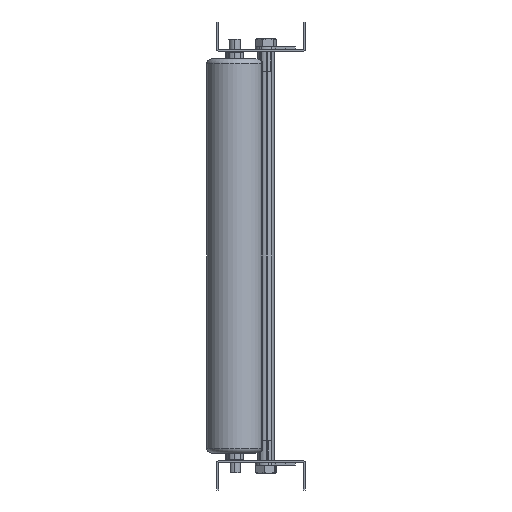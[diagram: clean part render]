
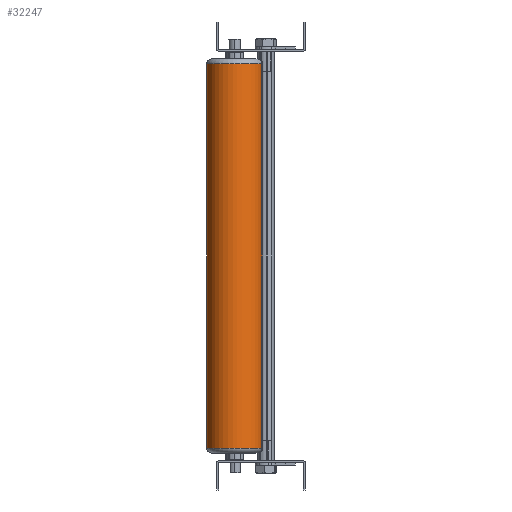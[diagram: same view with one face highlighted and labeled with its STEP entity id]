
A CAD part, left-side view. The second image highlights one B-rep face of the part: STEP entity #32247.
In plain terms, the highlighted cylindrical face has radius 28.5 mm (diameter 57 mm), a partial arc.
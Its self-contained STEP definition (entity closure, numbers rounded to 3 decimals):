
#270 = DIRECTION ( 'NONE',  ( 0.25, 0.968, 0. ) ) ;
#1215 = CARTESIAN_POINT ( 'NONE',  ( -3175.861, 630.681, 661.827 ) ) ;
#1379 = DIRECTION ( 'NONE',  ( 0., 0., -1. ) ) ;
#2423 = VECTOR ( 'NONE', #26807, 1000. ) ;
#4990 = CARTESIAN_POINT ( 'NONE',  ( -3190.121, 575.493, 656.827 ) ) ;
#6243 = LINE ( 'NONE', #1215, #14077 ) ;
#6300 = EDGE_LOOP ( 'NONE', ( #30361, #29631, #15604, #21312 ) ) ;
#7262 = CARTESIAN_POINT ( 'NONE',  ( -3182.991, 603.087, 661.827 ) ) ;
#7741 = EDGE_CURVE ( 'NONE', #30685, #14946, #12250, .T. ) ;
#8318 = CARTESIAN_POINT ( 'NONE',  ( -3182.991, 603.087, 656.827 ) ) ;
#9182 = VERTEX_POINT ( 'NONE', #4990 ) ;
#9428 = LINE ( 'NONE', #29321, #2423 ) ;
#10902 = DIRECTION ( 'NONE',  ( 0., 0., 1. ) ) ;
#12250 = CIRCLE ( 'NONE', #16531, 28.5 ) ;
#12660 = FACE_OUTER_BOUND ( 'NONE', #6300, .T. ) ;
#14077 = VECTOR ( 'NONE', #1379, 1000. ) ;
#14685 = DIRECTION ( 'NONE',  ( -0.25, -0.968, 0. ) ) ;
#14946 = VERTEX_POINT ( 'NONE', #17250 ) ;
#15405 = AXIS2_PLACEMENT_3D ( 'NONE', #8318, #15736, #270 ) ;
#15604 = ORIENTED_EDGE ( 'NONE', *, *, #7741, .T. ) ;
#15736 = DIRECTION ( 'NONE',  ( 0., 0., -1. ) ) ;
#16531 = AXIS2_PLACEMENT_3D ( 'NONE', #21037, #10902, #31646 ) ;
#16931 = EDGE_CURVE ( 'NONE', #9182, #14946, #9428, .T. ) ;
#17250 = CARTESIAN_POINT ( 'NONE',  ( -3190.121, 575.493, 266.827 ) ) ;
#17570 = CIRCLE ( 'NONE', #15405, 28.5 ) ;
#18253 = CARTESIAN_POINT ( 'NONE',  ( -3175.861, 630.681, 656.827 ) ) ;
#18324 = EDGE_CURVE ( 'NONE', #9182, #33072, #17570, .T. ) ;
#18868 = EDGE_CURVE ( 'NONE', #33072, #30685, #6243, .T. ) ;
#20017 = AXIS2_PLACEMENT_3D ( 'NONE', #7262, #27848, #14685 ) ;
#21037 = CARTESIAN_POINT ( 'NONE',  ( -3182.991, 603.087, 266.827 ) ) ;
#21312 = ORIENTED_EDGE ( 'NONE', *, *, #16931, .F. ) ;
#23312 = CARTESIAN_POINT ( 'NONE',  ( -3175.861, 630.681, 266.827 ) ) ;
#26807 = DIRECTION ( 'NONE',  ( 0., 0., -1. ) ) ;
#27671 = CYLINDRICAL_SURFACE ( 'NONE', #20017, 28.5 ) ;
#27848 = DIRECTION ( 'NONE',  ( 0., 0., -1. ) ) ;
#29321 = CARTESIAN_POINT ( 'NONE',  ( -3190.121, 575.493, 661.827 ) ) ;
#29631 = ORIENTED_EDGE ( 'NONE', *, *, #18868, .T. ) ;
#30361 = ORIENTED_EDGE ( 'NONE', *, *, #18324, .T. ) ;
#30685 = VERTEX_POINT ( 'NONE', #23312 ) ;
#31646 = DIRECTION ( 'NONE',  ( 0.25, 0.968, 0. ) ) ;
#32247 = ADVANCED_FACE ( 'NONE', ( #12660 ), #27671, .T. ) ;
#33072 = VERTEX_POINT ( 'NONE', #18253 ) ;
